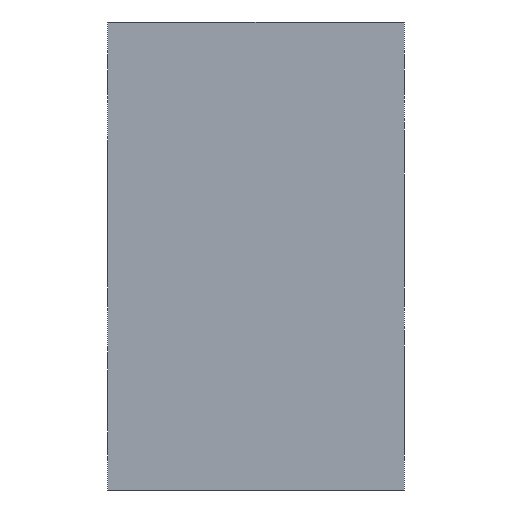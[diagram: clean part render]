
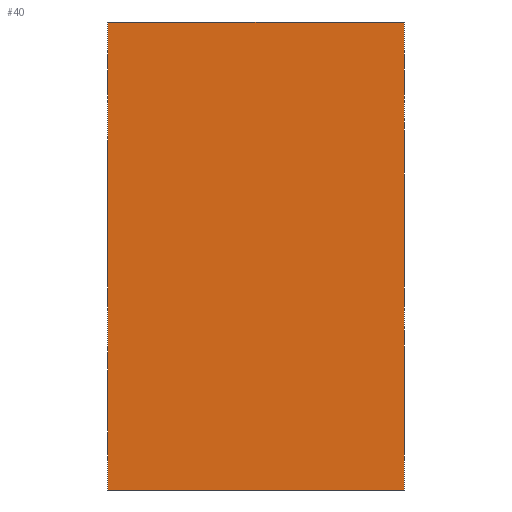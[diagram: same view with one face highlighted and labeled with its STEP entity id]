
A CAD part, left-side view. The second image highlights one B-rep face of the part: STEP entity #40.
In plain terms, the highlighted planar face has unit normal (-1, 0, 0).
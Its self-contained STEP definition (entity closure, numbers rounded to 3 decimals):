
#40 = ADVANCED_FACE ( 'NONE', ( #3978 ), #4059, .T. ) ;
#197 = EDGE_CURVE ( 'NONE', #4685, #6090, #3405, .T. ) ;
#202 = CARTESIAN_POINT ( 'NONE',  ( 0., 19., -30. ) ) ;
#268 = VERTEX_POINT ( 'NONE', #3419 ) ;
#476 = EDGE_CURVE ( 'NONE', #6090, #268, #3081, .T. ) ;
#529 = CARTESIAN_POINT ( 'NONE',  ( 0., 19., -30. ) ) ;
#559 = EDGE_CURVE ( 'NONE', #6863, #4685, #2049, .T. ) ;
#715 = ORIENTED_EDGE ( 'NONE', *, *, #476, .F. ) ;
#978 = EDGE_LOOP ( 'NONE', ( #2687, #1996, #4031, #715 ) ) ;
#1456 = CARTESIAN_POINT ( 'NONE',  ( 0., -19., -30. ) ) ;
#1568 = VECTOR ( 'NONE', #1937, 1000. ) ;
#1937 = DIRECTION ( 'NONE',  ( 0., -1., 0. ) ) ;
#1996 = ORIENTED_EDGE ( 'NONE', *, *, #559, .F. ) ;
#2049 = LINE ( 'NONE', #4389, #2057 ) ;
#2057 = VECTOR ( 'NONE', #8472, 1000. ) ;
#2300 = DIRECTION ( 'NONE',  ( 0., 0., 1. ) ) ;
#2687 = ORIENTED_EDGE ( 'NONE', *, *, #197, .F. ) ;
#3015 = VECTOR ( 'NONE', #2300, 1000. ) ;
#3081 = LINE ( 'NONE', #6267, #3015 ) ;
#3326 = CARTESIAN_POINT ( 'NONE',  ( 0., -19., -30. ) ) ;
#3383 = VECTOR ( 'NONE', #4625, 1000. ) ;
#3405 = LINE ( 'NONE', #3326, #3383 ) ;
#3419 = CARTESIAN_POINT ( 'NONE',  ( 0., 19., 30. ) ) ;
#3769 = CARTESIAN_POINT ( 'NONE',  ( 0., -19., 30. ) ) ;
#3907 = LINE ( 'NONE', #7169, #1568 ) ;
#3978 = FACE_OUTER_BOUND ( 'NONE', #978, .T. ) ;
#4031 = ORIENTED_EDGE ( 'NONE', *, *, #4100, .F. ) ;
#4059 = PLANE ( 'NONE',  #6541 ) ;
#4100 = EDGE_CURVE ( 'NONE', #268, #6863, #3907, .T. ) ;
#4389 = CARTESIAN_POINT ( 'NONE',  ( 0., -19., 30. ) ) ;
#4625 = DIRECTION ( 'NONE',  ( 0., 1., 0. ) ) ;
#4685 = VERTEX_POINT ( 'NONE', #1456 ) ;
#4902 = DIRECTION ( 'NONE',  ( 0., 0., 1. ) ) ;
#5585 = DIRECTION ( 'NONE',  ( -1., 0., 0. ) ) ;
#6090 = VERTEX_POINT ( 'NONE', #202 ) ;
#6267 = CARTESIAN_POINT ( 'NONE',  ( 0., 19., 30. ) ) ;
#6541 = AXIS2_PLACEMENT_3D ( 'NONE', #529, #5585, #4902 ) ;
#6863 = VERTEX_POINT ( 'NONE', #3769 ) ;
#7169 = CARTESIAN_POINT ( 'NONE',  ( 0., -19., 30. ) ) ;
#8472 = DIRECTION ( 'NONE',  ( 0., 0., -1. ) ) ;
